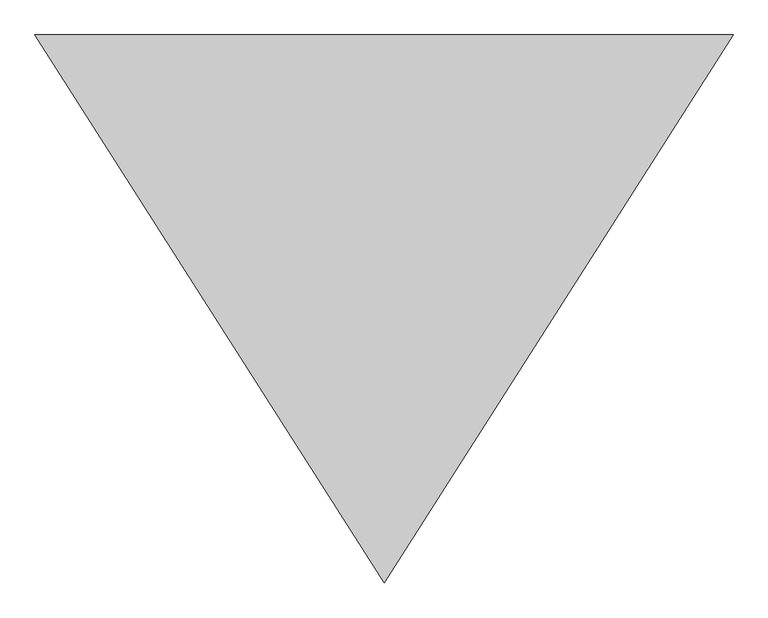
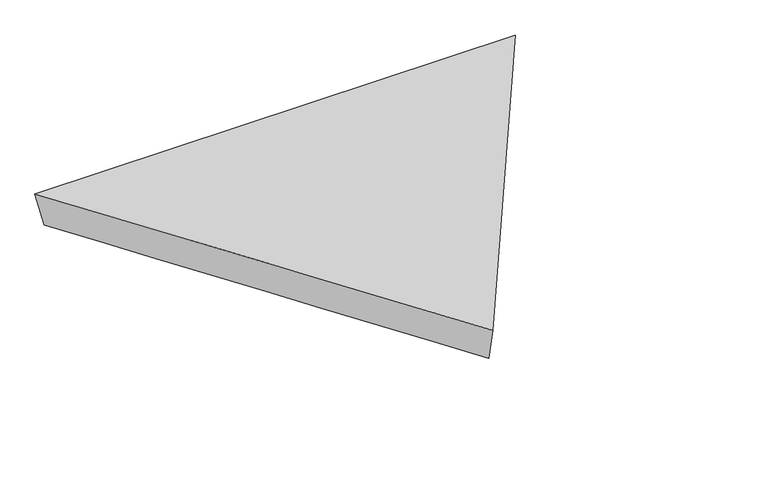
"""IFC4 building model written with IfcOpenShell, lengths in millimetres: plate geometry."""

from ifc_helpers import new_model, si_unit, frame, origin, place, context, project, spatial, source, transform, mapped, element, save
from ifc_brep_helpers import plane_surface, spline_surface, advanced_brep


def plate_1a6cfdd9(model_context):
    return source(origin(), model_context, "Body", "AdvancedBrep", [
        advanced_brep(
        [(6096.0, 3653.9296621, 0.0), (7452.4087631, 5793.0351689, 0.0), (7496.8614846, 5808.9829496, 197.6356846), (6096.0, 3610.1508856, 198.4279686), (4739.5912369, 5793.0351689, 0.0), (4695.1385154, 5808.9829496, 197.6356846)],
        [
            (0, 1),
            (1, 2),
            (2, 3),
            (3, 0),
            (1, 4),
            (4, 5),
            (5, 2),
            (4, 0),
            (3, 5),
        ],
        [
            spline_surface(1, 1, [[(6096.0, 3653.9296621, 0.0), (6096.0, 3610.1508856, 198.4279686)], [(7452.4087631, 5793.0351689, 0.0), (7496.8614846, 5808.9829496, 197.6356846)]], [2, 2], [2, 2], [0.0, 1.0], [0.0, 1.0]),
            plane_surface(frame((6096.0, 5793.0351689, 0.0), z_axis=(0.0, 0.9967601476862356, -0.08043138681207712), x_axis=(-1.0, 0.0, 0.0))),
            spline_surface(1, 1, [[(4739.5912369, 5793.0351689, 0.0), (4695.1385154, 5808.9829496, 197.6356846)], [(6096.0, 3653.9296621, 0.0), (6096.0, 3610.1508856, 198.4279686)]], [2, 2], [2, 2], [0.0, 1.0], [0.0, 1.0]),
            plane_surface(frame((6096.0, 5076.0389282, 197.8997793), z_axis=(0.0, 0.0003603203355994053, 0.9999999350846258), x_axis=(0.5373134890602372, -0.843382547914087, 0.0003038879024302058))),
            plane_surface(frame((6096.0, 5080.0, 0.0), z_axis=(0.0, 0.0, -1.0), x_axis=(-0.5355146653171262, 0.844525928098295, 0.0))),
        ],
        [
            (0, [[1, 2, 3, 4]]),
            (1, [[5, 6, 7, -2]]),
            (2, [[8, -4, 9, -6]]),
            (3, [[-9, -3, -7]]),
            (4, [[-8, -5, -1]]),
        ],
    ),
    ])


if __name__ == "__main__":
    model = new_model("IFC4")
    model_context = context("Model", 3, world=origin())
    ifc_project = project(units=[si_unit("LENGTHUNIT", "METRE", prefix="MILLI")], contexts=[model_context])
    site = spatial("IfcSite", under=ifc_project)
    building = spatial("IfcBuilding", under=site)
    placement = place(None, origin())
    plate_shape = plate_1a6cfdd9(model_context)
    element("IfcPlate", 1, ObjectType="tn_cpanel_patbase_triangle_flat_seamless_solid_01 : tn_cpanel_pattern_mullion_h8\"", at=placement, inside=building, context=model_context, shape_type="MappedRepresentation", body=[
        mapped(plate_shape, transform((0.0, 0.0, 0.0), x_axis=(1.0, 0.0, 0.0), y_axis=(0.0, 1.0, 0.0), z_axis=(0.0, 0.0, 1.0))),
    ])
    save(model, "model.ifc")
